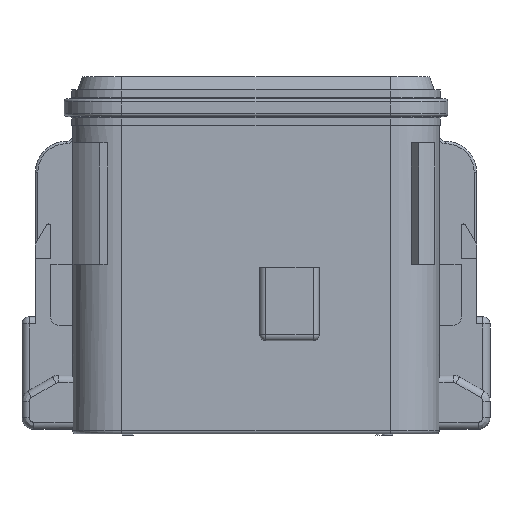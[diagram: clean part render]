
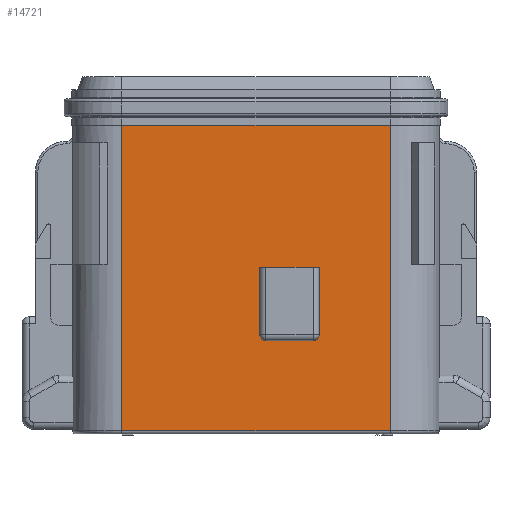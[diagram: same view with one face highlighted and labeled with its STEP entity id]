
A CAD part, front view. The second image highlights one B-rep face of the part: STEP entity #14721.
In plain terms, the highlighted planar face has unit normal (0, -1, 0).
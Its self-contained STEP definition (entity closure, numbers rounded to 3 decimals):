
#1543=DIRECTION('',(0.,0.,-1.));
#1544=VECTOR('',#1543,26.48);
#1545=CARTESIAN_POINT('',(11.621,-9.093,-4.204));
#1546=LINE('',#1545,#1544);
#4614=DIRECTION('',(1.,0.,0.));
#4615=VECTOR('',#4614,4.14);
#4616=CARTESIAN_POINT('',(0.826,-9.093,-22.86));
#4617=LINE('',#4616,#4615);
#4618=CARTESIAN_POINT('',(4.966,-9.093,-22.352));
#4619=DIRECTION('',(0.,-1.,0.));
#4620=DIRECTION('',(0.,0.,-1.));
#4621=AXIS2_PLACEMENT_3D('',#4618,#4619,#4620);
#4623=DIRECTION('',(0.,0.,1.));
#4624=VECTOR('',#4623,5.842);
#4625=CARTESIAN_POINT('',(5.474,-9.093,-22.352));
#4626=LINE('',#4625,#4624);
#4627=DIRECTION('',(-1.,0.,0.));
#4628=VECTOR('',#4627,5.156);
#4629=CARTESIAN_POINT('',(5.474,-9.093,-16.51));
#4630=LINE('',#4629,#4628);
#4631=DIRECTION('',(0.,0.,-1.));
#4632=VECTOR('',#4631,5.842);
#4633=CARTESIAN_POINT('',(0.318,-9.093,-16.51));
#4634=LINE('',#4633,#4632);
#4635=CARTESIAN_POINT('',(0.826,-9.093,-22.352));
#4636=DIRECTION('',(0.,-1.,0.));
#4637=DIRECTION('',(-1.,0.,0.));
#4638=AXIS2_PLACEMENT_3D('',#4635,#4636,#4637);
#4640=DIRECTION('',(1.,0.,0.));
#4641=VECTOR('',#4640,23.241);
#4642=CARTESIAN_POINT('',(-11.621,-9.093,-4.204));
#4643=LINE('',#4642,#4641);
#4644=DIRECTION('',(-1.,0.,0.));
#4645=VECTOR('',#4644,23.241);
#4646=CARTESIAN_POINT('',(11.621,-9.093,-30.683));
#4647=LINE('',#4646,#4645);
#4648=DIRECTION('',(0.,0.,-1.));
#4649=VECTOR('',#4648,26.48);
#4650=CARTESIAN_POINT('',(-11.621,-9.093,-4.204));
#4651=LINE('',#4650,#4649);
#7713=CARTESIAN_POINT('',(-11.621,-9.093,-4.204));
#7714=VERTEX_POINT('',#7713);
#7715=CARTESIAN_POINT('',(11.621,-9.093,-4.204));
#7716=VERTEX_POINT('',#7715);
#8261=CARTESIAN_POINT('',(0.826,-9.093,-22.86));
#8262=CARTESIAN_POINT('',(4.966,-9.093,-22.86));
#8263=VERTEX_POINT('',#8261);
#8264=VERTEX_POINT('',#8262);
#8265=CARTESIAN_POINT('',(5.474,-9.093,-22.352));
#8266=VERTEX_POINT('',#8265);
#8267=CARTESIAN_POINT('',(5.474,-9.093,-16.51));
#8268=VERTEX_POINT('',#8267);
#8269=CARTESIAN_POINT('',(0.318,-9.093,-16.51));
#8270=VERTEX_POINT('',#8269);
#8271=CARTESIAN_POINT('',(0.318,-9.093,-22.352));
#8272=VERTEX_POINT('',#8271);
#8291=CARTESIAN_POINT('',(-11.621,-9.093,-30.683));
#8292=VERTEX_POINT('',#8291);
#8295=CARTESIAN_POINT('',(11.621,-9.093,-30.683));
#8296=VERTEX_POINT('',#8295);
#14696=CARTESIAN_POINT('',(-11.621,-9.093,-3.81));
#14697=DIRECTION('',(0.,-1.,0.));
#14698=DIRECTION('',(1.,0.,0.));
#14699=AXIS2_PLACEMENT_3D('',#14696,#14697,#14698);
#14700=PLANE('',#14699);
#14701=ORIENTED_EDGE('',*,*,#10450,.T.);
#14702=ORIENTED_EDGE('',*,*,#10712,.T.);
#14703=ORIENTED_EDGE('',*,*,#14689,.T.);
#14704=ORIENTED_EDGE('',*,*,#10569,.F.);
#14705=EDGE_LOOP('',(#14701,#14702,#14703,#14704));
#14706=FACE_OUTER_BOUND('',#14705,.F.);
#14708=ORIENTED_EDGE('',*,*,#14707,.T.);
#14710=ORIENTED_EDGE('',*,*,#14709,.T.);
#14712=ORIENTED_EDGE('',*,*,#14711,.T.);
#14714=ORIENTED_EDGE('',*,*,#14713,.T.);
#14716=ORIENTED_EDGE('',*,*,#14715,.T.);
#14718=ORIENTED_EDGE('',*,*,#14717,.T.);
#14719=EDGE_LOOP('',(#14708,#14710,#14712,#14714,#14716,#14718));
#14720=FACE_BOUND('',#14719,.F.);
#14721=ADVANCED_FACE('',(#14706,#14720),#14700,.T.);
#4622=CIRCLE('',#4621,0.508);
#4639=CIRCLE('',#4638,0.508);
#10450=EDGE_CURVE('',#7714,#7716,#4643,.T.);
#10569=EDGE_CURVE('',#7714,#8292,#4651,.T.);
#10712=EDGE_CURVE('',#7716,#8296,#1546,.T.);
#14689=EDGE_CURVE('',#8296,#8292,#4647,.T.);
#14707=EDGE_CURVE('',#8263,#8264,#4617,.T.);
#14709=EDGE_CURVE('',#8264,#8266,#4622,.T.);
#14711=EDGE_CURVE('',#8266,#8268,#4626,.T.);
#14713=EDGE_CURVE('',#8268,#8270,#4630,.T.);
#14715=EDGE_CURVE('',#8270,#8272,#4634,.T.);
#14717=EDGE_CURVE('',#8272,#8263,#4639,.T.);
